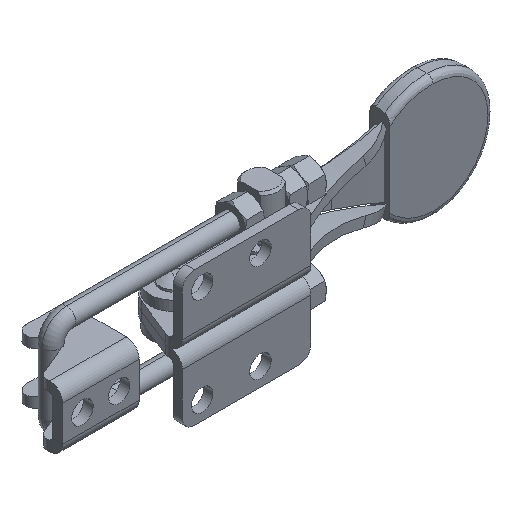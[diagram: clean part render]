
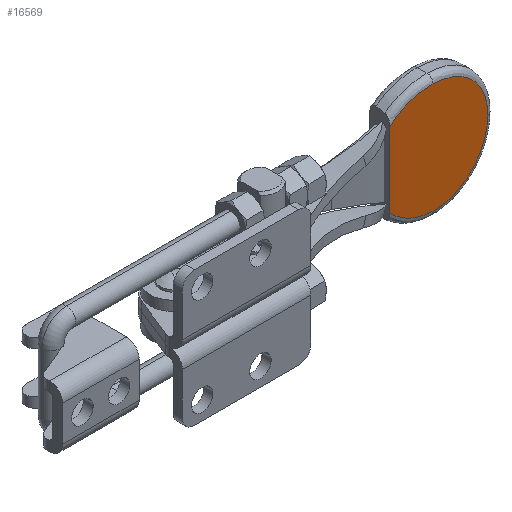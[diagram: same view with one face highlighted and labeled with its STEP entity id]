
A CAD part, isometric view. The second image highlights one B-rep face of the part: STEP entity #16569.
In plain terms, the highlighted cylindrical face has radius 225.2 mm (diameter 450.4 mm), a partial arc.
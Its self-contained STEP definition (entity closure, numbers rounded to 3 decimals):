
#16515=AXIS2_PLACEMENT_3D('Cylinder Axis2P3D',#16512,#16513,#16514) ;
#16512=CARTESIAN_POINT('Axis2P3D Location',(92.222,226.757,0.)) ;
#16517=CARTESIAN_POINT('Line Origine',(73.144,2.367,0.)) ;
#16521=CARTESIAN_POINT('Vertex',(73.144,2.367,-12.231)) ;
#16523=CARTESIAN_POINT('Vertex',(73.144,2.367,12.231)) ;
#16527=CARTESIAN_POINT('Control Point',(73.144,2.367,-12.231)) ;
#16528=CARTESIAN_POINT('Control Point',(75.688,2.15,-14.953)) ;
#16529=CARTESIAN_POINT('Control Point',(78.987,1.907,-16.98)) ;
#16530=CARTESIAN_POINT('Control Point',(82.729,1.726,-18.)) ;
#16531=CARTESIAN_POINT('Control Point',(86.469,1.631,-18.)) ;
#16532=CARTESIAN_POINT('Vertex',(86.469,1.631,-18.)) ;
#16536=CARTESIAN_POINT('Control Point',(86.469,1.631,-18.)) ;
#16537=CARTESIAN_POINT('Control Point',(92.162,1.485,-18.)) ;
#16538=CARTESIAN_POINT('Control Point',(97.863,1.517,-15.795)) ;
#16539=CARTESIAN_POINT('Control Point',(102.384,1.776,-11.34)) ;
#16540=CARTESIAN_POINT('Control Point',(104.63,1.899,-5.667)) ;
#16541=CARTESIAN_POINT('Control Point',(104.63,1.899,0.)) ;
#16542=CARTESIAN_POINT('Vertex',(104.63,1.899,0.)) ;
#16546=CARTESIAN_POINT('Control Point',(86.469,1.631,18.)) ;
#16547=CARTESIAN_POINT('Control Point',(92.162,1.485,18.)) ;
#16548=CARTESIAN_POINT('Control Point',(97.863,1.517,15.795)) ;
#16549=CARTESIAN_POINT('Control Point',(102.385,1.776,11.34)) ;
#16550=CARTESIAN_POINT('Control Point',(104.63,1.899,5.667)) ;
#16551=CARTESIAN_POINT('Control Point',(104.63,1.899,0.)) ;
#16552=CARTESIAN_POINT('Vertex',(86.469,1.631,18.)) ;
#16556=CARTESIAN_POINT('Control Point',(86.469,1.631,18.)) ;
#16557=CARTESIAN_POINT('Control Point',(82.729,1.726,18.)) ;
#16558=CARTESIAN_POINT('Control Point',(78.987,1.907,16.98)) ;
#16559=CARTESIAN_POINT('Control Point',(75.688,2.15,14.953)) ;
#16560=CARTESIAN_POINT('Control Point',(73.144,2.367,12.231)) ;
#16513=DIRECTION('Axis2P3D Direction',(0.,0.,1.)) ;
#16514=DIRECTION('Axis2P3D XDirection',(-0.085,-0.996,-0.)) ;
#16518=DIRECTION('Vector Direction',(0.,0.,1.)) ;
#16519=VECTOR('Line Direction',#16518,1.) ;
#16563=ORIENTED_EDGE('',*,*,#16525,.F.) ;
#16564=ORIENTED_EDGE('',*,*,#16534,.F.) ;
#16565=ORIENTED_EDGE('',*,*,#16544,.F.) ;
#16566=ORIENTED_EDGE('',*,*,#16554,.F.) ;
#16567=ORIENTED_EDGE('',*,*,#16561,.F.) ;
#16569=ADVANCED_FACE('PartBody',(#16568),#16516,.T.) ;
#16526=B_SPLINE_CURVE_WITH_KNOTS('',4,(#16527,#16528,#16529,#16530,#16531),.UNSPECIFIED.,.F.,.U.,(5,5),(62.519,84.78),.UNSPECIFIED.) ;
#16535=B_SPLINE_CURVE_WITH_KNOTS('',5,(#16536,#16537,#16538,#16539,#16540,#16541),.UNSPECIFIED.,.F.,.U.,(6,6),(84.781,127.137),.UNSPECIFIED.) ;
#16545=B_SPLINE_CURVE_WITH_KNOTS('',5,(#16546,#16547,#16548,#16549,#16550,#16551),.UNSPECIFIED.,.F.,.U.,(6,6),(0.,42.357),.UNSPECIFIED.) ;
#16555=B_SPLINE_CURVE_WITH_KNOTS('',4,(#16556,#16557,#16558,#16559,#16560),.UNSPECIFIED.,.F.,.U.,(5,5),(0.,22.262),.UNSPECIFIED.) ;
#16516=CYLINDRICAL_SURFACE('generated cylinder',#16515,225.2) ;
#16525=EDGE_CURVE('',#16522,#16524,#16520,.T.) ;
#16534=EDGE_CURVE('',#16533,#16522,#16526,.F.) ;
#16544=EDGE_CURVE('',#16543,#16533,#16535,.F.) ;
#16554=EDGE_CURVE('',#16553,#16543,#16545,.T.) ;
#16561=EDGE_CURVE('',#16524,#16553,#16555,.F.) ;
#16562=EDGE_LOOP('',(#16563,#16564,#16565,#16566,#16567)) ;
#16568=FACE_OUTER_BOUND('',#16562,.T.) ;
#16520=LINE('Line',#16517,#16519) ;
#16522=VERTEX_POINT('',#16521) ;
#16524=VERTEX_POINT('',#16523) ;
#16533=VERTEX_POINT('',#16532) ;
#16543=VERTEX_POINT('',#16542) ;
#16553=VERTEX_POINT('',#16552) ;
